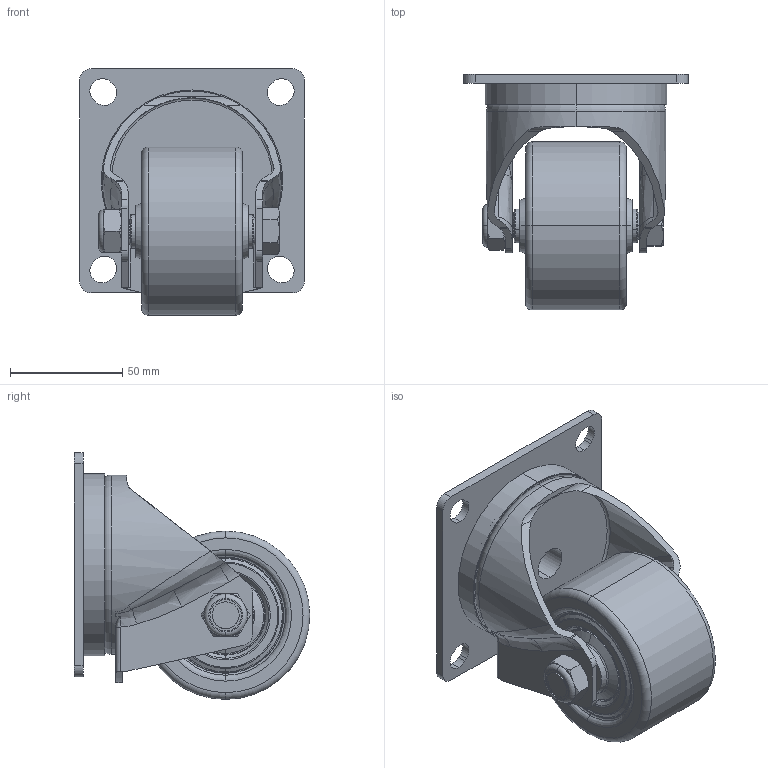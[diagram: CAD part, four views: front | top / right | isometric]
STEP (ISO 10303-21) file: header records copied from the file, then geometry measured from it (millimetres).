
FILE_DESCRIPTION (( 'STEP AP214' ), '1' );
FILE_NAME ('MXN75-P.step', '2024-01-17T23:02:16', ( '' ), ( '' ), 'SwSTEP 2.0', 'SolidWorks 2022', '' );
FILE_SCHEMA (( 'AUTOMOTIVE_DESIGN' ));
Length unit declared in the file: millimetre
Products named in the file (7): MXN75-P; MXN75; M12NYLOC; SP15-12-55; M12 X 80; 100X100 PLATE
Assembly tree (6 placements, depth 2):
  MXN75-P
    MXN75-P
    M12 X 80
    M12NYLOC
    SP15-12-55
    MXN75
    100X100 PLATE
Bounding box: 100 x 105 x 110 mm (x, y, z)
Volume: 346632.5 mm3; surface area: 87934 mm2
Topology: 6 solids, 6 shells, 467 faces, 1199 edges, 775 vertices
Faces by surface type: plane 187, cylinder 111, bspline 96, torus 41, cone 32
Entity records: 24051 total; most frequent: CARTESIAN_POINT 12352, ORIENTED_EDGE 2398, DIRECTION 1879, EDGE_CURVE 1199, VERTEX_POINT 775, AXIS2_PLACEMENT_3D 652, VECTOR 575, LINE 575
